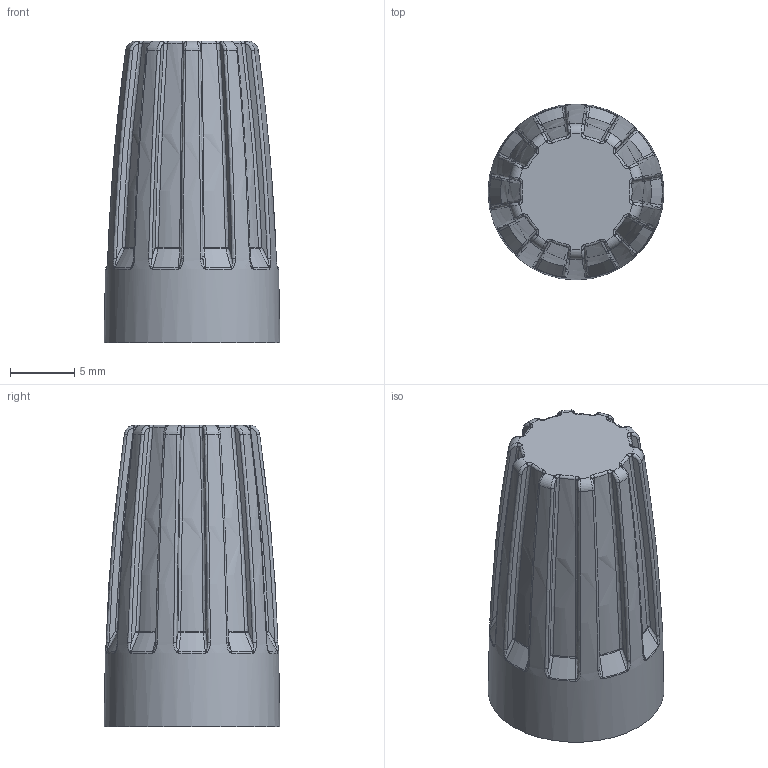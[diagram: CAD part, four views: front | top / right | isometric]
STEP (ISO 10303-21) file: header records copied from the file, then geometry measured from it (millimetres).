
FILE_DESCRIPTION(/* description */ ('Unknown'),/* implementation_level */ '2;1');
FILE_NAME(/* name */ 'Ideal 74B-4',/* time_stamp */ '2021-10-08T08:49:59+02:00',/* author */ ('Unknown'),/* organization */ ('Unknown'),/* preprocessor_version */ 'ST-DEVELOPER v16.7',/* originating_system */ 'Solid Edge',/* authorisation */ 'Unknown');
FILE_SCHEMA (('AUTOMOTIVE_DESIGN {1 0 10303 214 3 1 1}'));
Length unit declared in the file: millimetre
Products named in the file (1): Ideal 74B-4
Bounding box: 13.7 x 13.7 x 23.5 mm (x, y, z)
Volume: 1875.5 mm3; surface area: 1684 mm2
Topology: 1 solids, 1 shells, 248 faces, 553 edges, 309 vertices
Faces by surface type: bspline 140, torus 52, plane 24, sphere 20, cone 12
Entity records: 8234 total; most frequent: CARTESIAN_POINT 3721, ORIENTED_EDGE 1092, DIRECTION 750, EDGE_CURVE 546, AXIS2_PLACEMENT_3D 375, VERTEX_POINT 306, B_SPLINE_CURVE_WITH_KNOTS 280, CIRCLE 266
